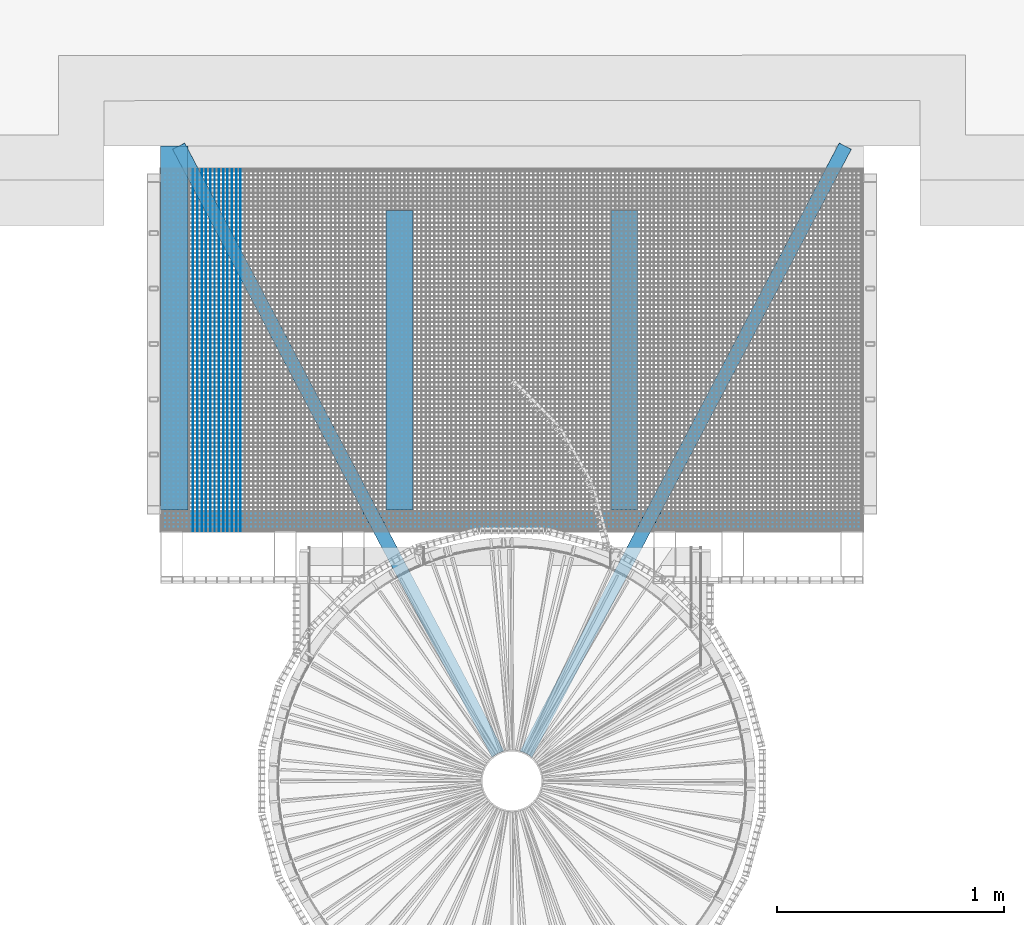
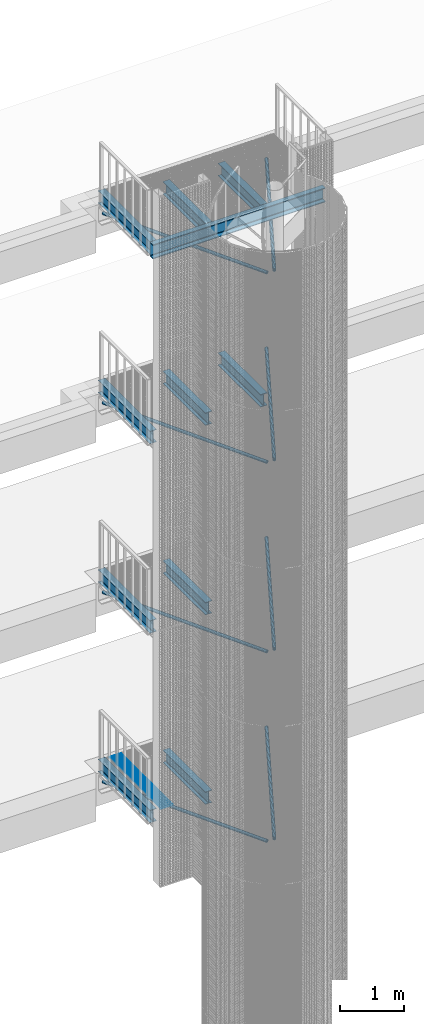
# One storey, part 92 of 1183: 31 beams, 20 elements without a shape of their own.
"""IFC2X3 building model written with IfcOpenShell, lengths in millimetres."""

from ifc_helpers import new_model, si_unit, frame, origin_with_axes, origin_2d_with_axis, place, context, subcontext, project, spatial, polyline, rectangle, hollow_circle, i_section, u_section, outline, extrude, boolean, material, type_object, element, aggregate, save


model = new_model("IFC2X3")

# Units and contexts
model_context = context("Model", 3, precision=1e-05, world=origin_with_axes())
body_context = subcontext(model_context, "Body", "Model", "MODEL_VIEW")
ifc_project = project(units=[si_unit("LENGTHUNIT", "METRE", prefix="MILLI"), si_unit("AREAUNIT", "SQUARE_METRE"), si_unit("VOLUMEUNIT", "CUBIC_METRE"), si_unit("MASSUNIT", "GRAM", prefix="KILO"), si_unit("TIMEUNIT", "SECOND"), si_unit("PLANEANGLEUNIT", "RADIAN"), si_unit("SOLIDANGLEUNIT", "STERADIAN"), si_unit("THERMODYNAMICTEMPERATUREUNIT", "DEGREE_CELSIUS"), si_unit("LUMINOUSINTENSITYUNIT", "LUMEN")], contexts=[model_context])

# Site, building, storey
site_placement = place(None, origin_with_axes())
site = spatial("IfcSite", under=ifc_project, at=site_placement, Name="Undefined", CompositionType="ELEMENT")
building_placement = place(site_placement, origin_with_axes())
building = spatial("IfcBuilding", under=site, at=building_placement, Name="Undefined", CompositionType="ELEMENT")
storey_placement = place(building_placement, origin_with_axes())
storey = spatial("IfcBuildingStorey", under=building, at=storey_placement, Name="Undefined", CompositionType="ELEMENT", Elevation=0.0)

# Assembly, beams
assembly_1_placement = place(storey_placement, origin_with_axes())
assembly_1 = element("IfcElementAssembly", 1, at=assembly_1_placement, inside=storey, Name="BORDURE", AssemblyPlace="NOTDEFINED", PredefinedType="NOTDEFINED")
ifc_material_1 = material(Name="STEEL/S235JR")
beam_type_1 = type_object("IfcBeamType", Name="PL2*10", PredefinedType="NOTDEFINED")
beam_1_placement = place(assembly_1_placement, frame((20194.1154247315, 1101.9953986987, 6485.0), z_axis=(0.0, 0.0, 1.0), x_axis=(-4.50599999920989e-06, 0.999999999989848, 0.0)))
beam_1 = element("IfcBeam", 2, at=beam_1_placement, type_object=beam_type_1, material=ifc_material_1, Name="ENTRETOISE", context=body_context, shape_type="SweptSolid", body=[
    extrude(rectangle(XDim=2.0, YDim=10.0, at=origin_2d_with_axis()), frame((1596.0000000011, -1.35186458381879e-18, -7.27595761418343e-12), z_axis=(-1.0, 0.0, 0.0), x_axis=(0.0, -1.0, 0.0)), (0.0, 0.0, 1.0), 1596.0),
])
beam_2_placement = place(assembly_1_placement, frame((20213.1154247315, 1101.99549221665, 6485.0), z_axis=(0.0, 0.0, 1.0), x_axis=(-4.50599999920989e-06, 0.999999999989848, 0.0)))
beam_2 = element("IfcBeam", 3, at=beam_2_placement, type_object=beam_type_1, material=ifc_material_1, Name="ENTRETOISE", context=body_context, shape_type="SweptSolid", body=[
    extrude(rectangle(XDim=2.0, YDim=10.0, at=origin_2d_with_axis()), frame((1596.0000000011, -1.35186458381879e-18, -7.27595761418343e-12), z_axis=(-1.0, 0.0, 0.0), x_axis=(0.0, -1.0, 0.0)), (0.0, 0.0, 1.0), 1596.0),
])
beam_3_placement = place(assembly_1_placement, frame((20232.1154247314, 1101.9955857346, 6485.0), z_axis=(0.0, 0.0, 1.0), x_axis=(-4.50599999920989e-06, 0.999999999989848, 0.0)))
beam_3 = element("IfcBeam", 4, at=beam_3_placement, type_object=beam_type_1, material=ifc_material_1, Name="ENTRETOISE", context=body_context, shape_type="SweptSolid", body=[
    extrude(rectangle(XDim=2.0, YDim=10.0, at=origin_2d_with_axis()), frame((1596.0000000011, -1.35186458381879e-18, -7.27595761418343e-12), z_axis=(-1.0, 0.0, 0.0), x_axis=(0.0, -1.0, 0.0)), (0.0, 0.0, 1.0), 1596.0),
])
beam_4_placement = place(assembly_1_placement, frame((20251.1154247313, 1101.99567925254, 6485.0), z_axis=(0.0, 0.0, 1.0), x_axis=(-4.50599999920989e-06, 0.999999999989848, 0.0)))
beam_4 = element("IfcBeam", 5, at=beam_4_placement, type_object=beam_type_1, material=ifc_material_1, Name="ENTRETOISE", context=body_context, shape_type="SweptSolid", body=[
    extrude(rectangle(XDim=2.0, YDim=10.0, at=origin_2d_with_axis()), frame((1596.0000000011, -1.35186458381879e-18, -7.27595761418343e-12), z_axis=(-1.0, 0.0, 0.0), x_axis=(0.0, -1.0, 0.0)), (0.0, 0.0, 1.0), 1596.0),
])
beam_5_placement = place(assembly_1_placement, frame((20270.1154247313, 1101.99577277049, 6485.0), z_axis=(0.0, 0.0, 1.0), x_axis=(-4.50599999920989e-06, 0.999999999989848, 0.0)))
beam_5 = element("IfcBeam", 6, at=beam_5_placement, type_object=beam_type_1, material=ifc_material_1, Name="ENTRETOISE", context=body_context, shape_type="SweptSolid", body=[
    extrude(rectangle(XDim=2.0, YDim=10.0, at=origin_2d_with_axis()), frame((1596.0000000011, -1.35186458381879e-18, -7.27595761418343e-12), z_axis=(-1.0, 0.0, 0.0), x_axis=(0.0, -1.0, 0.0)), (0.0, 0.0, 1.0), 1596.0),
])
beam_6_placement = place(assembly_1_placement, frame((20289.1154247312, 1101.99586628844, 6485.0), z_axis=(0.0, 0.0, 1.0), x_axis=(-4.50599999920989e-06, 0.999999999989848, 0.0)))
beam_6 = element("IfcBeam", 7, at=beam_6_placement, type_object=beam_type_1, material=ifc_material_1, Name="ENTRETOISE", context=body_context, shape_type="SweptSolid", body=[
    extrude(rectangle(XDim=2.0, YDim=10.0, at=origin_2d_with_axis()), frame((1596.0000000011, -1.35186458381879e-18, -7.27595761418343e-12), z_axis=(-1.0, 0.0, 0.0), x_axis=(0.0, -1.0, 0.0)), (0.0, 0.0, 1.0), 1596.0),
])
beam_7_placement = place(assembly_1_placement, frame((20308.1154247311, 1101.99595980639, 6485.0), z_axis=(0.0, 0.0, 1.0), x_axis=(-4.50599999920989e-06, 0.999999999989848, 0.0)))
beam_7 = element("IfcBeam", 8, at=beam_7_placement, type_object=beam_type_1, material=ifc_material_1, Name="ENTRETOISE", context=body_context, shape_type="SweptSolid", body=[
    extrude(rectangle(XDim=2.0, YDim=10.0, at=origin_2d_with_axis()), frame((1596.0000000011, -1.35186458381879e-18, -7.27595761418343e-12), z_axis=(-1.0, 0.0, 0.0), x_axis=(0.0, -1.0, 0.0)), (0.0, 0.0, 1.0), 1596.0),
])
beam_8_placement = place(assembly_1_placement, frame((20327.1154247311, 1101.99605332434, 6485.0), z_axis=(0.0, 0.0, 1.0), x_axis=(-4.50599999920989e-06, 0.999999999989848, 0.0)))
beam_8 = element("IfcBeam", 9, at=beam_8_placement, type_object=beam_type_1, material=ifc_material_1, Name="ENTRETOISE", context=body_context, shape_type="SweptSolid", body=[
    extrude(rectangle(XDim=2.0, YDim=10.0, at=origin_2d_with_axis()), frame((1596.0000000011, -1.35186458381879e-18, -7.27595761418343e-12), z_axis=(-1.0, 0.0, 0.0), x_axis=(0.0, -1.0, 0.0)), (0.0, 0.0, 1.0), 1596.0),
])
beam_9_placement = place(assembly_1_placement, frame((20346.115424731, 1101.99614684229, 6485.0), z_axis=(0.0, 0.0, 1.0), x_axis=(-4.50599999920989e-06, 0.999999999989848, 0.0)))
beam_9 = element("IfcBeam", 10, at=beam_9_placement, type_object=beam_type_1, material=ifc_material_1, Name="ENTRETOISE", context=body_context, shape_type="SweptSolid", body=[
    extrude(rectangle(XDim=2.0, YDim=10.0, at=origin_2d_with_axis()), frame((1596.0000000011, -1.35186458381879e-18, -7.27595761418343e-12), z_axis=(-1.0, 0.0, 0.0), x_axis=(0.0, -1.0, 0.0)), (0.0, 0.0, 1.0), 1596.0),
])
beam_10_placement = place(assembly_1_placement, frame((20365.1154247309, 1101.99624036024, 6485.0), z_axis=(0.0, 0.0, 1.0), x_axis=(-4.50599999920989e-06, 0.999999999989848, 0.0)))
beam_10 = element("IfcBeam", 11, at=beam_10_placement, type_object=beam_type_1, material=ifc_material_1, Name="ENTRETOISE", context=body_context, shape_type="SweptSolid", body=[
    extrude(rectangle(XDim=2.0, YDim=10.0, at=origin_2d_with_axis()), frame((1596.0000000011, -1.35186458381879e-18, -7.27595761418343e-12), z_axis=(-1.0, 0.0, 0.0), x_axis=(0.0, -1.0, 0.0)), (0.0, 0.0, 1.0), 1596.0),
])
beam_11_placement = place(assembly_1_placement, frame((20384.1154247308, 1101.99633387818, 6485.0), z_axis=(0.0, 0.0, 1.0), x_axis=(-4.50599999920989e-06, 0.999999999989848, 0.0)))
beam_11 = element("IfcBeam", 12, at=beam_11_placement, type_object=beam_type_1, material=ifc_material_1, Name="ENTRETOISE", context=body_context, shape_type="SweptSolid", body=[
    extrude(rectangle(XDim=2.0, YDim=10.0, at=origin_2d_with_axis()), frame((1596.0000000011, -1.35186458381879e-18, -7.27595761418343e-12), z_axis=(-1.0, 0.0, 0.0), x_axis=(0.0, -1.0, 0.0)), (0.0, 0.0, 1.0), 1596.0),
])
beam_12_placement = place(assembly_1_placement, frame((20403.1154247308, 1101.99642739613, 6485.0), z_axis=(0.0, 0.0, 1.0), x_axis=(-4.50599999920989e-06, 0.999999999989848, 0.0)))
beam_12 = element("IfcBeam", 13, at=beam_12_placement, type_object=beam_type_1, material=ifc_material_1, Name="ENTRETOISE", context=body_context, shape_type="SweptSolid", body=[
    extrude(rectangle(XDim=2.0, YDim=10.0, at=origin_2d_with_axis()), frame((1596.0000000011, -1.35186458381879e-18, -7.27595761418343e-12), z_axis=(-1.0, 0.0, 0.0), x_axis=(0.0, -1.0, 0.0)), (0.0, 0.0, 1.0), 1596.0),
])
aggregate(assembly_1, [beam_1, beam_2, beam_3, beam_4, beam_5, beam_6, beam_7, beam_8, beam_9, beam_10, beam_11, beam_12])

# Assembly, beam
assembly_2_placement = place(storey_placement, origin_with_axes())
assembly_2 = element("IfcElementAssembly", 14, at=assembly_2_placement, inside=storey, AssemblyPlace="NOTDEFINED", PredefinedType="NOTDEFINED")
ifc_material_2 = material(Name="STEEL/S275JR")
beam_type_2 = type_object("IfcBeamType", Name="TUBE-60.3*5", PredefinedType="NOTDEFINED")
beam_13_placement = place(assembly_2_placement, frame((21600.0399999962, -0.239999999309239, 16790.0), z_axis=(0.0, 0.0, 1.0), x_axis=(0.464816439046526, 0.885407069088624, 0.0)))
beam_13 = element("IfcBeam", 15, at=beam_13_placement, type_object=beam_type_2, material=ifc_material_2, Name="BUTON", context=body_context, shape_type="CSG", body=[
    boolean("DIFFERENCE", extrude(hollow_circle(Radius=30.14999962, WallThickness=5.0, at=origin_2d_with_axis()), frame((3162.38211154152, 0.0, 0.0), z_axis=(-1.0, 0.0, 0.0), x_axis=(0.0, -1.0, 0.0)), (0.0, 0.0, 1.0), 3162.38), extrude(outline(polyline([(0.0, 0.0), (30.5663019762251, -4.91127138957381e-11), (60.366242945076, 6.80164206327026), (87.9055294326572, 20.0638634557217), (111.803226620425, 39.1216410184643), (130.861004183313, 63.0193382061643), (144.123225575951, 90.5586246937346), (150.9248676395, 120.358565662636), (150.924867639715, 150.924867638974), (144.123225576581, 180.724808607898), (130.86100418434, 208.264095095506), (111.803226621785, 232.161792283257), (87.9055294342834, 251.219569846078), (60.3662429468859, 264.481791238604), (30.5663019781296, 271.283433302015), (1.90266291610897e-09, 271.28343330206), (-29.7999409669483, 264.481791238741), (-57.3392274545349, 251.219569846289), (-81.2369246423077, 232.161792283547), (-100.294702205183, 208.26409509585), (-113.556923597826, 180.724808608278), (-120.35856566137, 150.92486763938), (-120.358565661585, 120.358565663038), (-113.556923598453, 90.5586246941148), (-100.294702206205, 63.0193382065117), (-81.2369246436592, 39.1216410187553), (-57.3392274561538, 20.0638634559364), (-29.7999409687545, 6.80164206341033), (0.0, 0.0)])), frame((-126.095723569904, 51.9463902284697, -33.0), z_axis=(0.0, 0.0, 1.0), x_axis=(-0.273507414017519, -0.961869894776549, 0.0)), (0.0, 0.0, 1.0), 66.0)),
])
aggregate(assembly_2, [beam_13])

assembly_3_placement = place(storey_placement, origin_with_axes())
assembly_3 = element("IfcElementAssembly", 16, at=assembly_3_placement, inside=storey, AssemblyPlace="NOTDEFINED", PredefinedType="NOTDEFINED")
beam_14_placement = place(assembly_3_placement, frame((21600.0399999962, -0.239999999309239, 16790.0), z_axis=(0.0, 0.0, 1.0), x_axis=(-0.464816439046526, 0.885407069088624, 0.0)))
beam_14 = element("IfcBeam", 17, at=beam_14_placement, type_object=beam_type_2, material=ifc_material_2, Name="BUTON", context=body_context, shape_type="CSG", body=[
    boolean("DIFFERENCE", extrude(hollow_circle(Radius=30.14999962, WallThickness=5.0, at=origin_2d_with_axis()), frame((3162.38211154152, 0.0, 0.0), z_axis=(-1.0, 0.0, 0.0), x_axis=(0.0, -1.0, 0.0)), (0.0, 0.0, 1.0), 3162.38), extrude(outline(polyline([(0.0, 0.0), (30.5663019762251, -4.91127138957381e-11), (60.366242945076, 6.80164206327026), (87.9055294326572, 20.0638634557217), (111.803226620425, 39.1216410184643), (130.861004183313, 63.0193382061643), (144.123225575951, 90.5586246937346), (150.9248676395, 120.358565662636), (150.924867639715, 150.924867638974), (144.123225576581, 180.724808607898), (130.86100418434, 208.264095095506), (111.803226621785, 232.161792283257), (87.9055294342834, 251.219569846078), (60.3662429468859, 264.481791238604), (30.5663019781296, 271.283433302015), (1.90266291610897e-09, 271.28343330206), (-29.7999409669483, 264.481791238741), (-57.3392274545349, 251.219569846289), (-81.2369246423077, 232.161792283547), (-100.294702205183, 208.26409509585), (-113.556923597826, 180.724808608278), (-120.35856566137, 150.92486763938), (-120.358565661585, 120.358565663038), (-113.556923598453, 90.5586246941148), (-100.294702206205, 63.0193382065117), (-81.2369246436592, 39.1216410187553), (-57.3392274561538, 20.0638634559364), (-29.7999409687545, 6.80164206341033), (0.0, 0.0)])), frame((-28.8514146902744, 133.289740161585, -33.0), z_axis=(0.0, 0.0, 1.0), x_axis=(-0.947040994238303, -0.321112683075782, 0.0)), (0.0, 0.0, 1.0), 66.0)),
])
aggregate(assembly_3, [beam_14])

assembly_4_placement = place(storey_placement, origin_with_axes())
assembly_4 = element("IfcElementAssembly", 18, at=assembly_4_placement, inside=storey, AssemblyPlace="NOTDEFINED", PredefinedType="NOTDEFINED")
beam_15_placement = place(assembly_4_placement, frame((21600.0399999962, -0.159999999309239, 13190.0), z_axis=(0.0, 0.0, 1.0), x_axis=(0.464816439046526, 0.885407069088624, 0.0)))
beam_15 = element("IfcBeam", 19, at=beam_15_placement, type_object=beam_type_2, material=ifc_material_2, Name="BUTON", context=body_context, shape_type="CSG", body=[
    boolean("DIFFERENCE", extrude(hollow_circle(Radius=30.14999962, WallThickness=5.0, at=origin_2d_with_axis()), frame((3162.38211154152, 0.0, 0.0), z_axis=(-1.0, 0.0, 0.0), x_axis=(0.0, -1.0, 0.0)), (0.0, 0.0, 1.0), 3162.38), extrude(outline(polyline([(0.0, 0.0), (30.5663019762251, -4.91127138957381e-11), (60.366242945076, 6.80164206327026), (87.9055294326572, 20.0638634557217), (111.803226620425, 39.1216410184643), (130.861004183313, 63.0193382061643), (144.123225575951, 90.5586246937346), (150.9248676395, 120.358565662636), (150.924867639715, 150.924867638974), (144.123225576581, 180.724808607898), (130.86100418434, 208.264095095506), (111.803226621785, 232.161792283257), (87.9055294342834, 251.219569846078), (60.3662429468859, 264.481791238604), (30.5663019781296, 271.283433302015), (1.90266291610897e-09, 271.28343330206), (-29.7999409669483, 264.481791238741), (-57.3392274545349, 251.219569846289), (-81.2369246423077, 232.161792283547), (-100.294702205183, 208.26409509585), (-113.556923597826, 180.724808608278), (-120.35856566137, 150.92486763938), (-120.358565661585, 120.358565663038), (-113.556923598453, 90.5586246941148), (-100.294702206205, 63.0193382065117), (-81.2369246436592, 39.1216410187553), (-57.3392274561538, 20.0638634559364), (-29.7999409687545, 6.80164206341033), (0.0, 0.0)])), frame((-126.166556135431, 51.9092049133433, -32.9999999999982), z_axis=(0.0, 0.0, 1.0), x_axis=(-0.273507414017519, -0.961869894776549, 0.0)), (0.0, 0.0, 1.0), 66.0)),
])
aggregate(assembly_4, [beam_15])

assembly_5_placement = place(storey_placement, origin_with_axes())
assembly_5 = element("IfcElementAssembly", 20, at=assembly_5_placement, inside=storey, AssemblyPlace="NOTDEFINED", PredefinedType="NOTDEFINED")
beam_16_placement = place(assembly_5_placement, frame((21600.0399999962, -0.159999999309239, 13190.0), z_axis=(0.0, 0.0, 1.0), x_axis=(-0.464816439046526, 0.885407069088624, 0.0)))
beam_16 = element("IfcBeam", 21, at=beam_16_placement, type_object=beam_type_2, material=ifc_material_2, Name="BUTON", context=body_context, shape_type="CSG", body=[
    boolean("DIFFERENCE", extrude(hollow_circle(Radius=30.14999962, WallThickness=5.0, at=origin_2d_with_axis()), frame((3162.38211154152, 0.0, 0.0), z_axis=(-1.0, 0.0, 0.0), x_axis=(0.0, -1.0, 0.0)), (0.0, 0.0, 1.0), 3162.38), extrude(outline(polyline([(0.0, 0.0), (30.5663019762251, -4.91127138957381e-11), (60.366242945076, 6.80164206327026), (87.9055294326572, 20.0638634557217), (111.803226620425, 39.1216410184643), (130.861004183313, 63.0193382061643), (144.123225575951, 90.5586246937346), (150.9248676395, 120.358565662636), (150.924867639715, 150.924867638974), (144.123225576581, 180.724808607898), (130.86100418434, 208.264095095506), (111.803226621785, 232.161792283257), (87.9055294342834, 251.219569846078), (60.3662429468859, 264.481791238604), (30.5663019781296, 271.283433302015), (1.90266291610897e-09, 271.28343330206), (-29.7999409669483, 264.481791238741), (-57.3392274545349, 251.219569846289), (-81.2369246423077, 232.161792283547), (-100.294702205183, 208.26409509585), (-113.556923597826, 180.724808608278), (-120.35856566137, 150.92486763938), (-120.358565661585, 120.358565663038), (-113.556923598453, 90.5586246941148), (-100.294702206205, 63.0193382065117), (-81.2369246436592, 39.1216410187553), (-57.3392274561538, 20.0638634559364), (-29.7999409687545, 6.80164206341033), (0.0, 0.0)])), frame((-28.9222472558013, 133.326925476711, -32.9999999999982), z_axis=(0.0, 0.0, 1.0), x_axis=(-0.947040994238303, -0.321112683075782, 0.0)), (0.0, 0.0, 1.0), 66.0)),
])
aggregate(assembly_5, [beam_16])

assembly_6_placement = place(storey_placement, origin_with_axes())
assembly_6 = element("IfcElementAssembly", 22, at=assembly_6_placement, inside=storey, AssemblyPlace="NOTDEFINED", PredefinedType="NOTDEFINED")
beam_17_placement = place(assembly_6_placement, frame((21600.0399999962, -0.0799999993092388, 9590.0), z_axis=(0.0, 0.0, 1.0), x_axis=(0.464816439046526, 0.885407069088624, 0.0)))
beam_17 = element("IfcBeam", 23, at=beam_17_placement, type_object=beam_type_2, material=ifc_material_2, Name="BUTON", context=body_context, shape_type="CSG", body=[
    boolean("DIFFERENCE", extrude(hollow_circle(Radius=30.14999962, WallThickness=5.0, at=origin_2d_with_axis()), frame((3162.38211154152, 0.0, 0.0), z_axis=(-1.0, 0.0, 0.0), x_axis=(0.0, -1.0, 0.0)), (0.0, 0.0, 1.0), 3162.38), extrude(outline(polyline([(0.0, 0.0), (30.5663019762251, -4.91127138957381e-11), (60.366242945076, 6.80164206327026), (87.9055294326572, 20.0638634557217), (111.803226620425, 39.1216410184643), (130.861004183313, 63.0193382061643), (144.123225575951, 90.5586246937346), (150.9248676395, 120.358565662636), (150.924867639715, 150.924867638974), (144.123225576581, 180.724808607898), (130.86100418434, 208.264095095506), (111.803226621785, 232.161792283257), (87.9055294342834, 251.219569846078), (60.3662429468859, 264.481791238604), (30.5663019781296, 271.283433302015), (1.90266291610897e-09, 271.28343330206), (-29.7999409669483, 264.481791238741), (-57.3392274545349, 251.219569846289), (-81.2369246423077, 232.161792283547), (-100.294702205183, 208.26409509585), (-113.556923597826, 180.724808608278), (-120.35856566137, 150.92486763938), (-120.358565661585, 120.358565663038), (-113.556923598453, 90.5586246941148), (-100.294702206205, 63.0193382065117), (-81.2369246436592, 39.1216410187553), (-57.3392274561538, 20.0638634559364), (-29.7999409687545, 6.80164206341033), (0.0, 0.0)])), frame((-126.237388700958, 51.8720195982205, -33.0), z_axis=(0.0, 0.0, 1.0), x_axis=(-0.273507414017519, -0.961869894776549, 0.0)), (0.0, 0.0, 1.0), 66.0)),
])
aggregate(assembly_6, [beam_17])

assembly_7_placement = place(storey_placement, origin_with_axes())
assembly_7 = element("IfcElementAssembly", 24, at=assembly_7_placement, inside=storey, AssemblyPlace="NOTDEFINED", PredefinedType="NOTDEFINED")
beam_18_placement = place(assembly_7_placement, frame((21600.0399999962, -0.0799999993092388, 9590.0), z_axis=(0.0, 0.0, 1.0), x_axis=(-0.464816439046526, 0.885407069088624, 0.0)))
beam_18 = element("IfcBeam", 25, at=beam_18_placement, type_object=beam_type_2, material=ifc_material_2, Name="BUTON", context=body_context, shape_type="CSG", body=[
    boolean("DIFFERENCE", extrude(hollow_circle(Radius=30.14999962, WallThickness=5.0, at=origin_2d_with_axis()), frame((3162.38211154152, 0.0, 0.0), z_axis=(-1.0, 0.0, 0.0), x_axis=(0.0, -1.0, 0.0)), (0.0, 0.0, 1.0), 3162.38), extrude(outline(polyline([(0.0, 0.0), (30.5663019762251, -4.91127138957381e-11), (60.366242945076, 6.80164206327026), (87.9055294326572, 20.0638634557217), (111.803226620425, 39.1216410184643), (130.861004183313, 63.0193382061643), (144.123225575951, 90.5586246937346), (150.9248676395, 120.358565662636), (150.924867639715, 150.924867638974), (144.123225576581, 180.724808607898), (130.86100418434, 208.264095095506), (111.803226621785, 232.161792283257), (87.9055294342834, 251.219569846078), (60.3662429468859, 264.481791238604), (30.5663019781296, 271.283433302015), (1.90266291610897e-09, 271.28343330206), (-29.7999409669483, 264.481791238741), (-57.3392274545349, 251.219569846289), (-81.2369246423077, 232.161792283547), (-100.294702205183, 208.26409509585), (-113.556923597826, 180.724808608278), (-120.35856566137, 150.92486763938), (-120.358565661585, 120.358565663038), (-113.556923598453, 90.5586246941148), (-100.294702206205, 63.0193382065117), (-81.2369246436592, 39.1216410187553), (-57.3392274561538, 20.0638634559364), (-29.7999409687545, 6.80164206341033), (0.0, 0.0)])), frame((-28.9930798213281, 133.364110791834, -33.0), z_axis=(0.0, 0.0, 1.0), x_axis=(-0.947040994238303, -0.321112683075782, 0.0)), (0.0, 0.0, 1.0), 66.0)),
])
aggregate(assembly_7, [beam_18])

assembly_8_placement = place(storey_placement, origin_with_axes())
assembly_8 = element("IfcElementAssembly", 26, at=assembly_8_placement, inside=storey, AssemblyPlace="NOTDEFINED", PredefinedType="NOTDEFINED")
beam_19_placement = place(assembly_8_placement, frame((21600.0399999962, 6.90761225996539e-10, 5990.0), z_axis=(0.0, 0.0, 1.0), x_axis=(0.464816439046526, 0.885407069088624, 0.0)))
beam_19 = element("IfcBeam", 27, at=beam_19_placement, type_object=beam_type_2, material=ifc_material_2, Name="BUTON", context=body_context, shape_type="CSG", body=[
    boolean("DIFFERENCE", extrude(hollow_circle(Radius=30.14999962, WallThickness=5.0, at=origin_2d_with_axis()), frame((3162.38211154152, 0.0, 0.0), z_axis=(-1.0, 0.0, 0.0), x_axis=(0.0, -1.0, 0.0)), (0.0, 0.0, 1.0), 3162.38), extrude(outline(polyline([(0.0, 0.0), (30.5663019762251, -4.91127138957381e-11), (60.366242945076, 6.80164206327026), (87.9055294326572, 20.0638634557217), (111.803226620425, 39.1216410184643), (130.861004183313, 63.0193382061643), (144.123225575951, 90.5586246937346), (150.9248676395, 120.358565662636), (150.924867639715, 150.924867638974), (144.123225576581, 180.724808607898), (130.86100418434, 208.264095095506), (111.803226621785, 232.161792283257), (87.9055294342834, 251.219569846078), (60.3662429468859, 264.481791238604), (30.5663019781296, 271.283433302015), (1.90266291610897e-09, 271.28343330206), (-29.7999409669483, 264.481791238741), (-57.3392274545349, 251.219569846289), (-81.2369246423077, 232.161792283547), (-100.294702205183, 208.26409509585), (-113.556923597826, 180.724808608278), (-120.35856566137, 150.92486763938), (-120.358565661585, 120.358565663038), (-113.556923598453, 90.5586246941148), (-100.294702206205, 63.0193382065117), (-81.2369246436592, 39.1216410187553), (-57.3392274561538, 20.0638634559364), (-29.7999409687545, 6.80164206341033), (0.0, 0.0)])), frame((-126.308221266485, 51.8348342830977, -33.0), z_axis=(0.0, 0.0, 1.0), x_axis=(-0.273507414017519, -0.961869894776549, 0.0)), (0.0, 0.0, 1.0), 66.0)),
])
aggregate(assembly_8, [beam_19])

assembly_9_placement = place(storey_placement, origin_with_axes())
assembly_9 = element("IfcElementAssembly", 28, at=assembly_9_placement, inside=storey, AssemblyPlace="NOTDEFINED", PredefinedType="NOTDEFINED")
beam_20_placement = place(assembly_9_placement, frame((21600.0399999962, 6.90761225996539e-10, 5990.0), z_axis=(0.0, 0.0, 1.0), x_axis=(-0.464816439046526, 0.885407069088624, 0.0)))
beam_20 = element("IfcBeam", 29, at=beam_20_placement, type_object=beam_type_2, material=ifc_material_2, Name="BUTON", context=body_context, shape_type="CSG", body=[
    boolean("DIFFERENCE", extrude(hollow_circle(Radius=30.14999962, WallThickness=5.0, at=origin_2d_with_axis()), frame((3162.38211154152, 0.0, 0.0), z_axis=(-1.0, 0.0, 0.0), x_axis=(0.0, -1.0, 0.0)), (0.0, 0.0, 1.0), 3162.38), extrude(outline(polyline([(0.0, 0.0), (30.5663019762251, -4.91127138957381e-11), (60.366242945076, 6.80164206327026), (87.9055294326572, 20.0638634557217), (111.803226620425, 39.1216410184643), (130.861004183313, 63.0193382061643), (144.123225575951, 90.5586246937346), (150.9248676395, 120.358565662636), (150.924867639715, 150.924867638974), (144.123225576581, 180.724808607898), (130.86100418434, 208.264095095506), (111.803226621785, 232.161792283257), (87.9055294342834, 251.219569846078), (60.3662429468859, 264.481791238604), (30.5663019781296, 271.283433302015), (1.90266291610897e-09, 271.28343330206), (-29.7999409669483, 264.481791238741), (-57.3392274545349, 251.219569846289), (-81.2369246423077, 232.161792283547), (-100.294702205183, 208.26409509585), (-113.556923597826, 180.724808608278), (-120.35856566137, 150.92486763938), (-120.358565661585, 120.358565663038), (-113.556923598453, 90.5586246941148), (-100.294702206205, 63.0193382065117), (-81.2369246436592, 39.1216410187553), (-57.3392274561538, 20.0638634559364), (-29.7999409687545, 6.80164206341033), (0.0, 0.0)])), frame((-29.063912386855, 133.401296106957, -33.0), z_axis=(0.0, 0.0, 1.0), x_axis=(-0.947040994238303, -0.321112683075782, 0.0)), (0.0, 0.0, 1.0), 66.0)),
])
aggregate(assembly_9, [beam_20])

assembly_10_placement = place(storey_placement, origin_with_axes())
assembly_10 = element("IfcElementAssembly", 30, at=assembly_10_placement, inside=storey, AssemblyPlace="NOTDEFINED", PredefinedType="NOTDEFINED")
beam_type_3 = type_object("IfcBeamType", Name="IPE240", PredefinedType="NOTDEFINED")
beam_21_placement = place(assembly_10_placement, frame((21103.4504345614, 1195.00994809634, 17120.0), z_axis=(0.0, 0.0, 1.0), x_axis=(-4.50599999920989e-06, 0.999999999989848, 0.0)))
beam_21 = element("IfcBeam", 31, at=beam_21_placement, type_object=beam_type_3, material=ifc_material_1, Name="EXISTANTS", context=body_context, shape_type="SweptSolid", body=[
    extrude(i_section(OverallWidth=120.0, OverallDepth=240.0, WebThickness=6.199999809, FlangeThickness=9.800000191, FilletRadius=15.0, at=origin_2d_with_axis()), frame((1319.99832798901, 0.0, -3.63797880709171e-12), z_axis=(-1.0, 0.0, 0.0), x_axis=(0.0, -1.0, 0.0)), (0.0, 0.0, 1.0), 1320.0),
])
aggregate(assembly_10, [beam_21])

assembly_11_placement = place(storey_placement, origin_with_axes())
assembly_11 = element("IfcElementAssembly", 32, at=assembly_11_placement, inside=storey, AssemblyPlace="NOTDEFINED", PredefinedType="NOTDEFINED")
beam_22_placement = place(assembly_11_placement, frame((22096.7804345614, 1195.00994809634, 17120.0), z_axis=(0.0, 0.0, 1.0), x_axis=(-4.50599999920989e-06, 0.999999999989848, 0.0)))
beam_22 = element("IfcBeam", 33, at=beam_22_placement, type_object=beam_type_3, material=ifc_material_1, Name="EXISTANTS", context=body_context, shape_type="SweptSolid", body=[
    extrude(i_section(OverallWidth=120.0, OverallDepth=240.0, WebThickness=6.199999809, FlangeThickness=9.800000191, FilletRadius=15.0, at=origin_2d_with_axis()), frame((1319.99832798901, 0.0, -3.63797880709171e-12), z_axis=(-1.0, 0.0, 0.0), x_axis=(0.0, -1.0, 0.0)), (0.0, 0.0, 1.0), 1320.0),
])
aggregate(assembly_11, [beam_22])

assembly_12_placement = place(storey_placement, origin_with_axes())
assembly_12 = element("IfcElementAssembly", 34, at=assembly_12_placement, inside=storey, AssemblyPlace="NOTDEFINED", PredefinedType="NOTDEFINED")
beam_23_placement = place(assembly_12_placement, frame((20110.1195898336, 1194.99494343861, 17120.0), z_axis=(0.0, 0.0, 1.0), x_axis=(-4.50599999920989e-06, 0.999999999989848, 0.0)))
beam_23 = element("IfcBeam", 35, at=beam_23_placement, type_object=beam_type_3, material=ifc_material_1, Name="EXISTANTS", context=body_context, shape_type="SweptSolid", body=[
    extrude(i_section(OverallWidth=120.0, OverallDepth=240.0, WebThickness=6.199999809, FlangeThickness=9.800000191, FilletRadius=15.0, at=origin_2d_with_axis()), frame((1605.0004478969, 0.0, 3.63797880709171e-12), z_axis=(-1.0, 0.0, 0.0), x_axis=(0.0, -1.0, 0.0)), (0.0, 0.0, 1.0), 1605.0),
])
aggregate(assembly_12, [beam_23])

assembly_13_placement = place(storey_placement, origin_with_axes())
assembly_13 = element("IfcElementAssembly", 36, at=assembly_13_placement, inside=storey, AssemblyPlace="NOTDEFINED", PredefinedType="NOTDEFINED")
beam_24_placement = place(assembly_13_placement, frame((21103.4504345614, 1195.00994809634, 13520.0), z_axis=(0.0, 0.0, 1.0), x_axis=(-4.50599999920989e-06, 0.999999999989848, 0.0)))
beam_24 = element("IfcBeam", 37, at=beam_24_placement, type_object=beam_type_3, material=ifc_material_1, Name="EXISTANTS", context=body_context, shape_type="SweptSolid", body=[
    extrude(i_section(OverallWidth=120.0, OverallDepth=240.0, WebThickness=6.199999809, FlangeThickness=9.800000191, FilletRadius=15.0, at=origin_2d_with_axis()), frame((1319.99832798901, 0.0, -3.63797880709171e-12), z_axis=(-1.0, 0.0, 0.0), x_axis=(0.0, -1.0, 0.0)), (0.0, 0.0, 1.0), 1320.0),
])
aggregate(assembly_13, [beam_24])

assembly_14_placement = place(storey_placement, origin_with_axes())
assembly_14 = element("IfcElementAssembly", 38, at=assembly_14_placement, inside=storey, AssemblyPlace="NOTDEFINED", PredefinedType="NOTDEFINED")
beam_25_placement = place(assembly_14_placement, frame((22096.7804345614, 1195.00994809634, 13520.0), z_axis=(0.0, 0.0, 1.0), x_axis=(-4.50599999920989e-06, 0.999999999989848, 0.0)))
beam_25 = element("IfcBeam", 39, at=beam_25_placement, type_object=beam_type_3, material=ifc_material_1, Name="EXISTANTS", context=body_context, shape_type="SweptSolid", body=[
    extrude(i_section(OverallWidth=120.0, OverallDepth=240.0, WebThickness=6.199999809, FlangeThickness=9.800000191, FilletRadius=15.0, at=origin_2d_with_axis()), frame((1319.99832798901, 0.0, -3.63797880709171e-12), z_axis=(-1.0, 0.0, 0.0), x_axis=(0.0, -1.0, 0.0)), (0.0, 0.0, 1.0), 1320.0),
])
aggregate(assembly_14, [beam_25])

assembly_15_placement = place(storey_placement, origin_with_axes())
assembly_15 = element("IfcElementAssembly", 40, at=assembly_15_placement, inside=storey, AssemblyPlace="NOTDEFINED", PredefinedType="NOTDEFINED")
beam_26_placement = place(assembly_15_placement, frame((20110.1195898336, 1194.99494343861, 13520.0), z_axis=(0.0, 0.0, 1.0), x_axis=(-4.50599999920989e-06, 0.999999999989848, 0.0)))
beam_26 = element("IfcBeam", 41, at=beam_26_placement, type_object=beam_type_3, material=ifc_material_1, Name="EXISTANTS", context=body_context, shape_type="SweptSolid", body=[
    extrude(i_section(OverallWidth=120.0, OverallDepth=240.0, WebThickness=6.199999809, FlangeThickness=9.800000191, FilletRadius=15.0, at=origin_2d_with_axis()), frame((1605.0004478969, 0.0, 3.63797880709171e-12), z_axis=(-1.0, 0.0, 0.0), x_axis=(0.0, -1.0, 0.0)), (0.0, 0.0, 1.0), 1605.0),
])
aggregate(assembly_15, [beam_26])

assembly_16_placement = place(storey_placement, origin_with_axes())
assembly_16 = element("IfcElementAssembly", 42, at=assembly_16_placement, inside=storey, AssemblyPlace="NOTDEFINED", PredefinedType="NOTDEFINED")
beam_27_placement = place(assembly_16_placement, frame((21103.4504345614, 1195.00994809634, 9920.0), z_axis=(0.0, 0.0, 1.0), x_axis=(-4.50599999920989e-06, 0.999999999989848, 0.0)))
beam_27 = element("IfcBeam", 43, at=beam_27_placement, type_object=beam_type_3, material=ifc_material_1, Name="EXISTANTS", context=body_context, shape_type="SweptSolid", body=[
    extrude(i_section(OverallWidth=120.0, OverallDepth=240.0, WebThickness=6.199999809, FlangeThickness=9.800000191, FilletRadius=15.0, at=origin_2d_with_axis()), frame((1319.99832798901, 0.0, -3.63797880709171e-12), z_axis=(-1.0, 0.0, 0.0), x_axis=(0.0, -1.0, 0.0)), (0.0, 0.0, 1.0), 1320.0),
])
aggregate(assembly_16, [beam_27])

assembly_17_placement = place(storey_placement, origin_with_axes())
assembly_17 = element("IfcElementAssembly", 44, at=assembly_17_placement, inside=storey, AssemblyPlace="NOTDEFINED", PredefinedType="NOTDEFINED")
beam_28_placement = place(assembly_17_placement, frame((20110.1195898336, 1194.99494343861, 9920.0), z_axis=(0.0, 0.0, 1.0), x_axis=(-4.50599999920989e-06, 0.999999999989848, 0.0)))
beam_28 = element("IfcBeam", 45, at=beam_28_placement, type_object=beam_type_3, material=ifc_material_1, Name="EXISTANTS", context=body_context, shape_type="SweptSolid", body=[
    extrude(i_section(OverallWidth=120.0, OverallDepth=240.0, WebThickness=6.199999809, FlangeThickness=9.800000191, FilletRadius=15.0, at=origin_2d_with_axis()), frame((1605.0004478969, 0.0, 3.63797880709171e-12), z_axis=(-1.0, 0.0, 0.0), x_axis=(0.0, -1.0, 0.0)), (0.0, 0.0, 1.0), 1605.0),
])
aggregate(assembly_17, [beam_28])

assembly_18_placement = place(storey_placement, origin_with_axes())
assembly_18 = element("IfcElementAssembly", 46, at=assembly_18_placement, inside=storey, AssemblyPlace="NOTDEFINED", PredefinedType="NOTDEFINED")
beam_29_placement = place(assembly_18_placement, frame((21103.4504345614, 1195.00994809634, 6320.0), z_axis=(0.0, 0.0, 1.0), x_axis=(-4.50599999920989e-06, 0.999999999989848, 0.0)))
beam_29 = element("IfcBeam", 47, at=beam_29_placement, type_object=beam_type_3, material=ifc_material_1, Name="EXISTANTS", context=body_context, shape_type="SweptSolid", body=[
    extrude(i_section(OverallWidth=120.0, OverallDepth=240.0, WebThickness=6.199999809, FlangeThickness=9.800000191, FilletRadius=15.0, at=origin_2d_with_axis()), frame((1319.99832798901, 0.0, -3.63797880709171e-12), z_axis=(-1.0, 0.0, 0.0), x_axis=(0.0, -1.0, 0.0)), (0.0, 0.0, 1.0), 1320.0),
])
aggregate(assembly_18, [beam_29])

assembly_19_placement = place(storey_placement, origin_with_axes())
assembly_19 = element("IfcElementAssembly", 48, at=assembly_19_placement, inside=storey, AssemblyPlace="NOTDEFINED", PredefinedType="NOTDEFINED")
beam_30_placement = place(assembly_19_placement, frame((20110.1195898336, 1194.99494343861, 6320.0), z_axis=(0.0, 0.0, 1.0), x_axis=(-4.50599999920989e-06, 0.999999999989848, 0.0)))
beam_30 = element("IfcBeam", 49, at=beam_30_placement, type_object=beam_type_3, material=ifc_material_1, Name="EXISTANTS", context=body_context, shape_type="SweptSolid", body=[
    extrude(i_section(OverallWidth=120.0, OverallDepth=240.0, WebThickness=6.199999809, FlangeThickness=9.800000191, FilletRadius=15.0, at=origin_2d_with_axis()), frame((1605.0004478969, 0.0, 3.63797880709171e-12), z_axis=(-1.0, 0.0, 0.0), x_axis=(0.0, -1.0, 0.0)), (0.0, 0.0, 1.0), 1605.0),
])
aggregate(assembly_19, [beam_30])

assembly_20_placement = place(storey_placement, origin_with_axes())
assembly_20 = element("IfcElementAssembly", 50, at=assembly_20_placement, inside=storey, AssemblyPlace="NOTDEFINED", PredefinedType="NOTDEFINED")
beam_type_4 = type_object("IfcBeamType", Name="UPE270", PredefinedType="NOTDEFINED")
beam_31_placement = place(assembly_20_placement, frame((20050.119356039, 1147.49468994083, 17105.0), z_axis=(0.0, 0.0, 1.0), x_axis=(0.999999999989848, 4.50600000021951e-06, 0.0)))
beam_31 = element("IfcBeam", 51, at=beam_31_placement, type_object=beam_type_4, material=ifc_material_1, Name="EXISTANTS", context=body_context, shape_type="SweptSolid", body=[
    extrude(u_section(Depth=270.0, FlangeWidth=95.0, WebThickness=7.5, FlangeThickness=13.5, FilletRadius=15.0, at=origin_2d_with_axis()), frame((3099.99084151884, -4.54747022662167e-13, 3.63797880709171e-12), z_axis=(-1.0, 0.0, 0.0), x_axis=(0.0, -1.0, 0.0)), (0.0, 0.0, 1.0), 3099.99),
])
aggregate(assembly_20, [beam_31])

save(model, "model.ifc")
